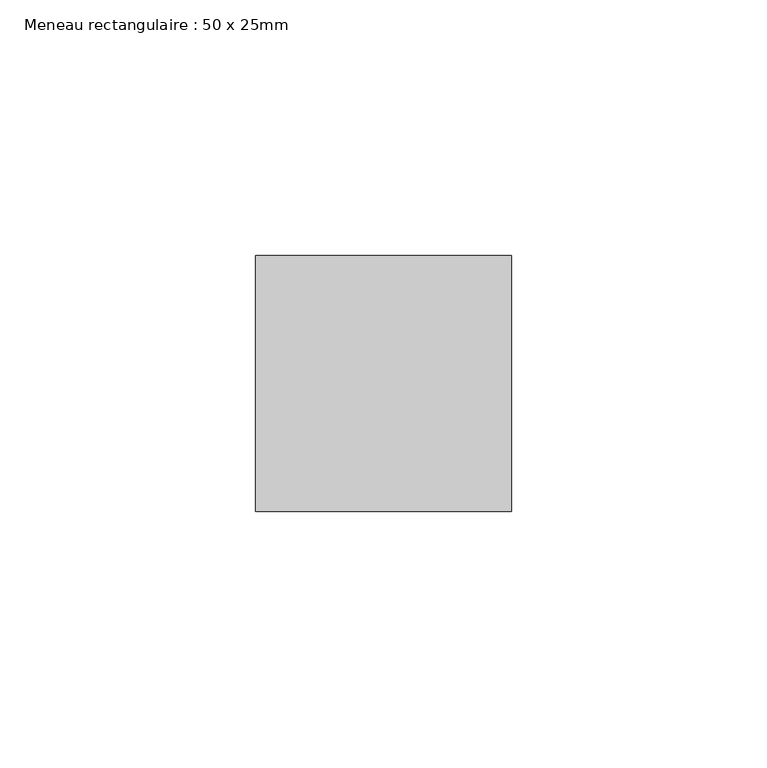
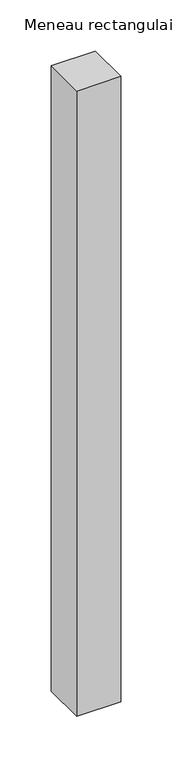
"""IFC4 building model written with IfcOpenShell, lengths in millimetres: member geometry, Meneau rectangulaire : 50 x 25mm."""

from ifc_helpers import new_model, si_unit, frame, origin, place, context, project, spatial, polyline, outline, extrude, source, transform, mapped, element, save


def meneau_rectangulaire_50_x_25mm_f9c9c8e4(model_context):
    return source(origin(), model_context, "Body", "SweptSolid", [
        extrude(outline(polyline([(0.0, 0.0), (0.0, -50.0), (-50.0, -50.0), (-50.0, 0.0), (0.0, 0.0)])), frame((0.0, 0.0, -748.6187888), z_axis=(0.0, 0.0, 1.0), x_axis=(1.0, 0.0, 0.0)), (0.0, 0.0, 1.0), 748.6187888),
    ])


if __name__ == "__main__":
    model = new_model("IFC4")
    model_context = context("Model", 3, world=origin())
    ifc_project = project(units=[si_unit("LENGTHUNIT", "METRE", prefix="MILLI")], contexts=[model_context])
    site = spatial("IfcSite", under=ifc_project)
    building = spatial("IfcBuilding", under=site)
    placement = place(None, origin())
    meneau_rectangulaire_50_x_25mm_shape = meneau_rectangulaire_50_x_25mm_f9c9c8e4(model_context)
    element("IfcMember", 1, ObjectType="Meneau rectangulaire : 50 x 25mm", at=placement, inside=building, context=model_context, shape_type="MappedRepresentation", body=[
        mapped(meneau_rectangulaire_50_x_25mm_shape, transform((0.0, 0.0, 0.0), x_axis=(1.0, 0.0, 0.0), y_axis=(0.0, 1.0, 0.0), z_axis=(0.0, 0.0, 1.0))),
    ])
    save(model, "model.ifc")
